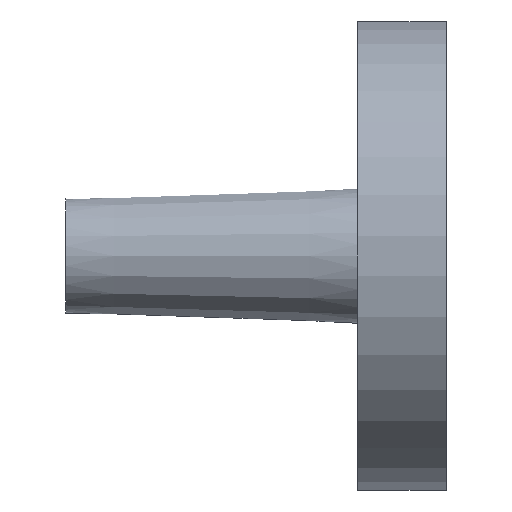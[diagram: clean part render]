
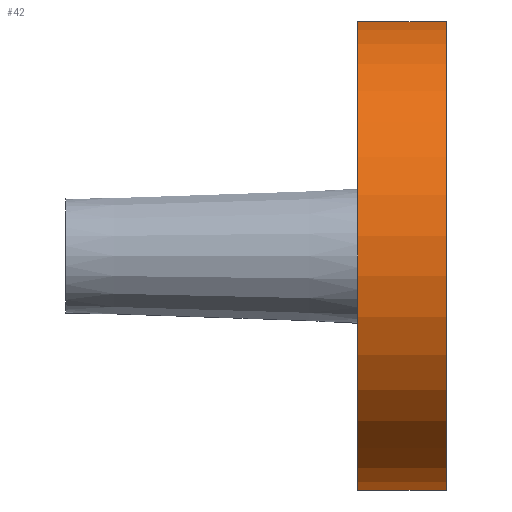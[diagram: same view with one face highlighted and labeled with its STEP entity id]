
A CAD part, left-side view. The second image highlights one B-rep face of the part: STEP entity #42.
In plain terms, the highlighted cylindrical face has radius 18.5 mm (diameter 37 mm), a partial arc.
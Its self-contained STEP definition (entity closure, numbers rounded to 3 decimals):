
#42 = ADVANCED_FACE( '', ( #90 ), #91, .T. );
#90 = FACE_OUTER_BOUND( '', #147, .T. );
#91 = CYLINDRICAL_SURFACE( '', #148, 18.5 );
#147 = EDGE_LOOP( '', ( #205, #206, #207, #208 ) );
#148 = AXIS2_PLACEMENT_3D( '', #209, #210, #211 );
#205 = ORIENTED_EDGE( '', *, *, #295, .F. );
#206 = ORIENTED_EDGE( '', *, *, #293, .F. );
#207 = ORIENTED_EDGE( '', *, *, #296, .T. );
#208 = ORIENTED_EDGE( '', *, *, #297, .T. );
#209 = CARTESIAN_POINT( '', ( 0., -30., 0. ) );
#210 = DIRECTION( '', ( 0., -1., 0. ) );
#211 = DIRECTION( '', ( 0., 0., 1. ) );
#293 = EDGE_CURVE( '', #331, #327, #333, .T. );
#295 = EDGE_CURVE( '', #327, #335, #336, .T. );
#296 = EDGE_CURVE( '', #331, #337, #338, .T. );
#297 = EDGE_CURVE( '', #337, #335, #339, .T. );
#327 = VERTEX_POINT( '', #377 );
#331 = VERTEX_POINT( '', #383 );
#333 = LINE( '', #386, #387 );
#335 = VERTEX_POINT( '', #389 );
#336 = CIRCLE( '', #390, 18.5 );
#337 = VERTEX_POINT( '', #391 );
#338 = CIRCLE( '', #392, 18.5 );
#339 = LINE( '', #393, #394 );
#377 = CARTESIAN_POINT( '', ( 17.812, -23., -5. ) );
#383 = CARTESIAN_POINT( '', ( 17.812, -30., -5. ) );
#386 = CARTESIAN_POINT( '', ( 17.812, -30., -5. ) );
#387 = VECTOR( '', #437, 1000. );
#389 = CARTESIAN_POINT( '', ( 17.812, -23., 5. ) );
#390 = AXIS2_PLACEMENT_3D( '', #438, #439, #440 );
#391 = CARTESIAN_POINT( '', ( 17.812, -30., 5. ) );
#392 = AXIS2_PLACEMENT_3D( '', #441, #442, #443 );
#393 = CARTESIAN_POINT( '', ( 17.812, -30., 5. ) );
#394 = VECTOR( '', #444, 1000. );
#437 = DIRECTION( '', ( 0., 1., 0. ) );
#438 = CARTESIAN_POINT( '', ( 0., -23., 0. ) );
#439 = DIRECTION( '', ( 0., 1., 0. ) );
#440 = DIRECTION( '', ( 1., 0., 0. ) );
#441 = CARTESIAN_POINT( '', ( 0., -30., 0. ) );
#442 = DIRECTION( '', ( 0., 1., 0. ) );
#443 = DIRECTION( '', ( 1., 0., 0. ) );
#444 = DIRECTION( '', ( 0., 1., 0. ) );
